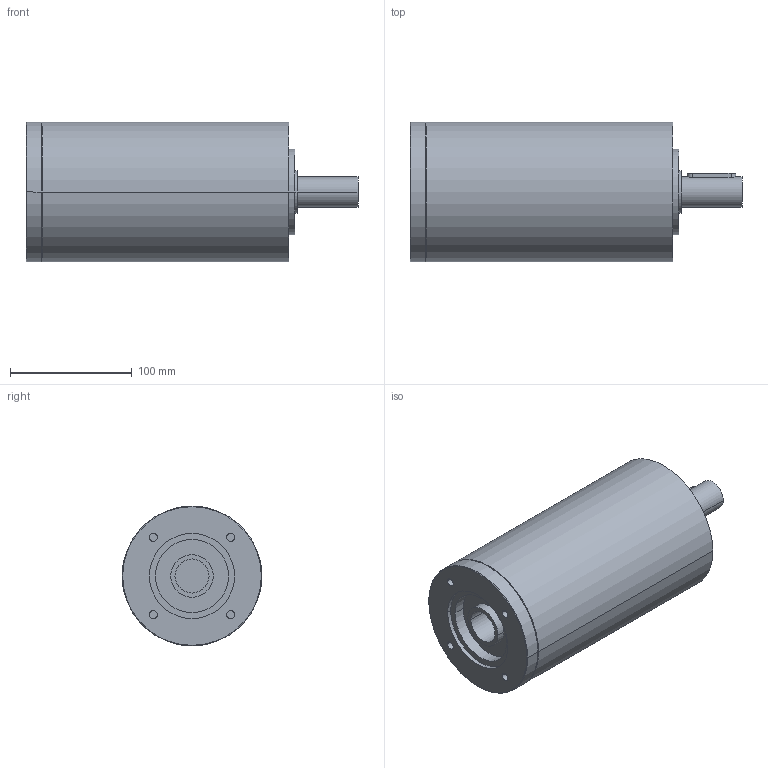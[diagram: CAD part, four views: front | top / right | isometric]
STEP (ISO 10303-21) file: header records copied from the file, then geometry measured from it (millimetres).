
FILE_DESCRIPTION(('CoCreate Modeling STEP Export'),'2;1');
FILE_NAME('GPR125_ig-48-64-80-100-140-196-245-343_25_B14_28_P17.stp','2014-08-26T14:22:56',(''),(''),'CoCreate Modeling STEP processor for AP214 (Solid Model)','CoCreate Modeling 16.00C 25-Feb-2009 (C) Parametric Technology GmbH','');
FILE_SCHEMA(('AUTOMOTIVE_DESIGN { 1 0 10303 214 1 1 1 1 }'));
Length unit declared in the file: millimetre
Products named in the file (2): GPR125_ig-48-64-80-100-140-196-245-343_25_B14_28_P17
Assembly tree (1 placements, depth 2):
  GPR125_ig-48-64-80-100-140-196-245-343_25_B14_28_P17
    GPR125_ig-48-64-80-100-140-196-245-343_25_B14_28_P17
Bounding box: 273 x 115 x 115 mm (x, y, z)
Volume: 2215177.2 mm3; surface area: 116416.6 mm2
Topology: 1 solids, 1 shells, 67 faces, 166 edges, 116 vertices
Faces by surface type: cylinder 38, plane 21, cone 8
Entity records: 1700 total; most frequent: ORIENTED_EDGE 328, CARTESIAN_POINT 320, DIRECTION 220, EDGE_CURVE 164, VERTEX_POINT 116, AXIS2_PLACEMENT_3D 84, EDGE_LOOP 84, FACE_OUTER_BOUND 67
